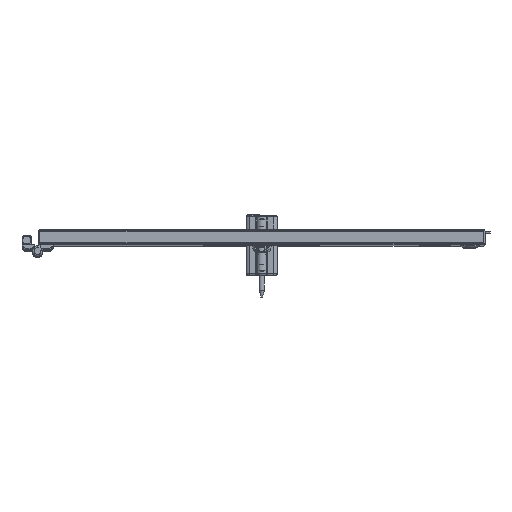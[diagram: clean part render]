
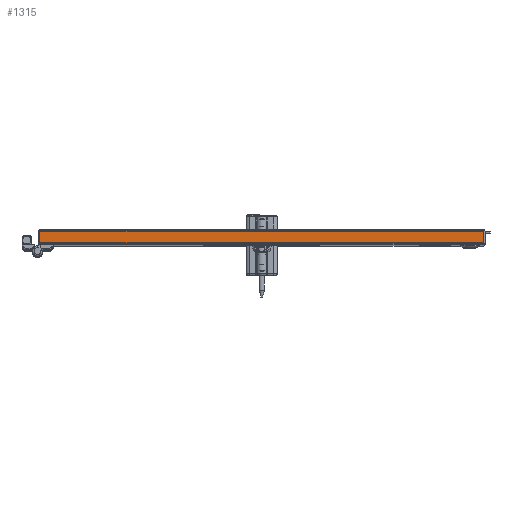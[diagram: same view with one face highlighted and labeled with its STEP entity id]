
A CAD part, top view. The second image highlights one B-rep face of the part: STEP entity #1315.
In plain terms, the highlighted planar face has unit normal (0, 0, 1).
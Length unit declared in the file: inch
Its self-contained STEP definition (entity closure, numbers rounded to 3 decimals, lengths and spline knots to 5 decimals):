
#1315 = ADVANCED_FACE( '', ( #3141 ), #3142, .T. );
#3141 = FACE_OUTER_BOUND( '', #5774, .T. );
#3142 = PLANE( '', #5775 );
#5774 = EDGE_LOOP( '', ( #9555, #9556, #9557, #9558 ) );
#5775 = AXIS2_PLACEMENT_3D( '', #9559, #9560, #9561 );
#9555 = ORIENTED_EDGE( '', *, *, #14914, .T. );
#9556 = ORIENTED_EDGE( '', *, *, #14915, .F. );
#9557 = ORIENTED_EDGE( '', *, *, #14916, .F. );
#9558 = ORIENTED_EDGE( '', *, *, #14917, .T. );
#9559 = CARTESIAN_POINT( '', ( 70.8395, 0., 20.9065 ) );
#9560 = DIRECTION( '', ( 0., 0., 1. ) );
#9561 = DIRECTION( '', ( 1., 0., 0. ) );
#14914 = EDGE_CURVE( '', #18083, #17467, #18084, .T. );
#14915 = EDGE_CURVE( '', #18085, #17467, #18086, .T. );
#14916 = EDGE_CURVE( '', #16204, #18085, #18087, .T. );
#14917 = EDGE_CURVE( '', #16204, #18083, #18088, .T. );
#16204 = VERTEX_POINT( '', #19703 );
#17467 = VERTEX_POINT( '', #21785 );
#18083 = VERTEX_POINT( '', #22772 );
#18084 = LINE( '', #22773, #22774 );
#18085 = VERTEX_POINT( '', #22775 );
#18086 = LINE( '', #22776, #22777 );
#18087 = LINE( '', #22778, #22779 );
#18088 = LINE( '', #22780, #22781 );
#19703 = CARTESIAN_POINT( '', ( 10.13039, 0.086, 20.9065 ) );
#21785 = CARTESIAN_POINT( '', ( -10.13039, 0.6015, 20.9065 ) );
#22772 = CARTESIAN_POINT( '', ( 10.13039, 0.6015, 20.9065 ) );
#22773 = CARTESIAN_POINT( '', ( 10.13039, 0.6015, 20.9065 ) );
#22774 = VECTOR( '', #26549, 39.37008 );
#22775 = CARTESIAN_POINT( '', ( -10.13039, 0.086, 20.9065 ) );
#22776 = CARTESIAN_POINT( '', ( -10.13039, 0.086, 20.9065 ) );
#22777 = VECTOR( '', #26550, 39.37008 );
#22778 = CARTESIAN_POINT( '', ( 70.8395, 0.086, 20.9065 ) );
#22779 = VECTOR( '', #26551, 39.37008 );
#22780 = CARTESIAN_POINT( '', ( 10.13039, 0.086, 20.9065 ) );
#22781 = VECTOR( '', #26552, 39.37008 );
#26549 = DIRECTION( '', ( -1., 0., 0. ) );
#26550 = DIRECTION( '', ( 0., 1., 0. ) );
#26551 = DIRECTION( '', ( -1., 0., 0. ) );
#26552 = DIRECTION( '', ( 0., 1., 0. ) );
